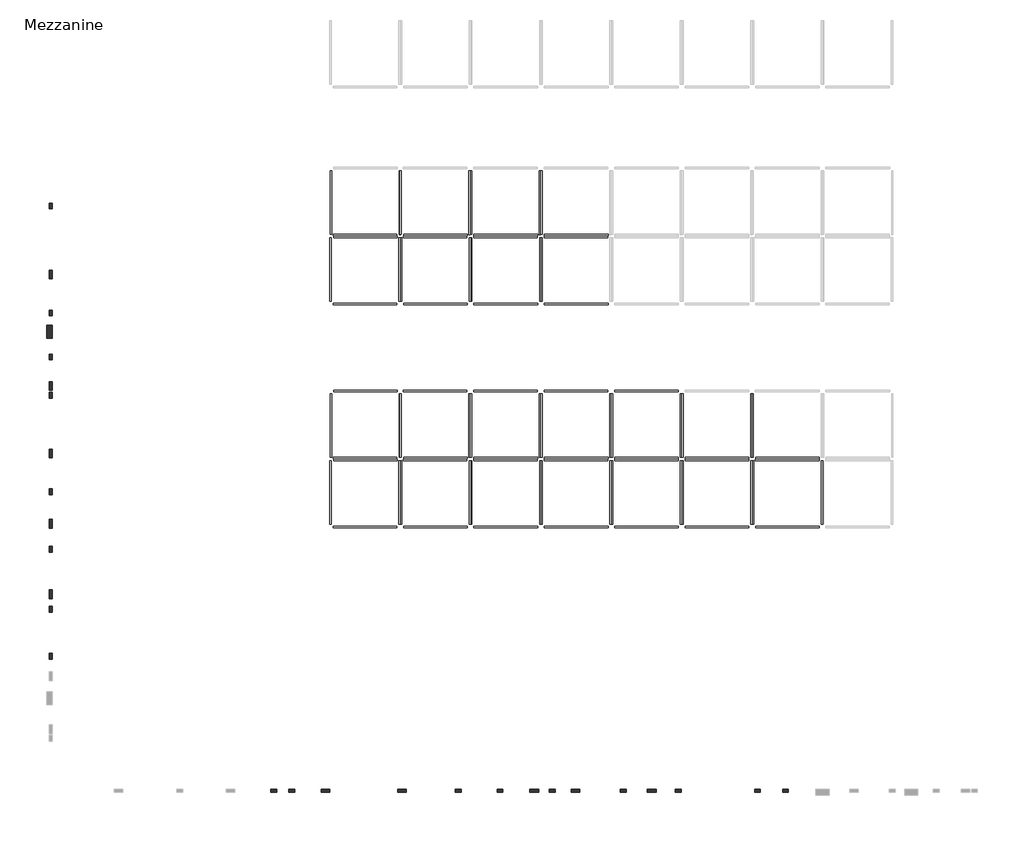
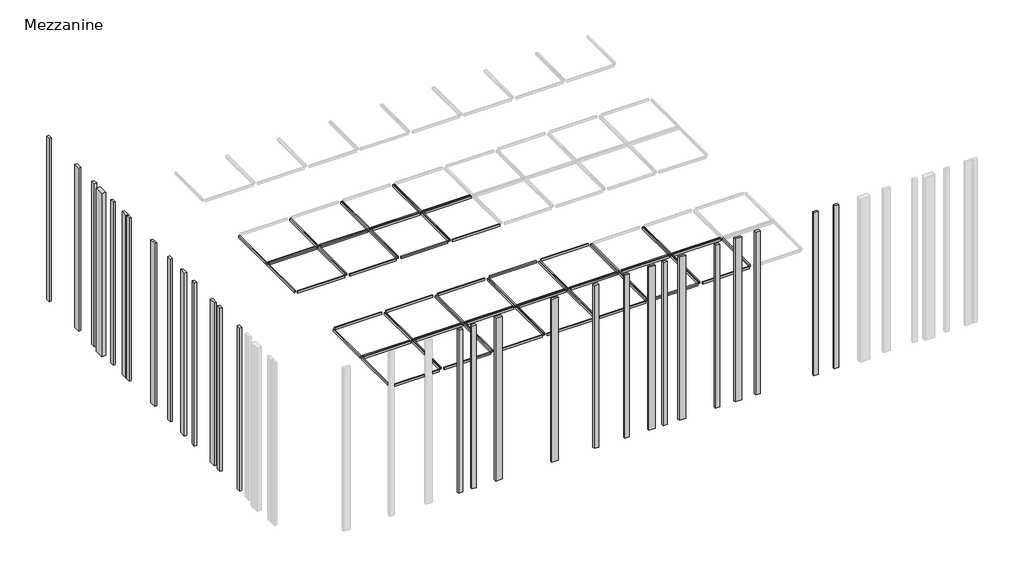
# One storey, part 3 of 7: 79 beams, 28 columns.
"""IFC4 building model written with IfcOpenShell, lengths in millimetres."""

from ifc_helpers import new_model, si_unit, frame, origin, place, context, project, spatial, polyline, outline, extrude, transform, mapped, element, save
from components import timber_gauged_nz_100_x_50_718b6390, timber_gauged_nz_100_x_50_7774ab14, timber_gauged_nz_100_x_50_7b7bee40, timber_gauged_nz_100_x_50_6be5a70a

model = new_model("IFC4")

# Units and contexts
model_context = context("Model", 3, world=origin())
ifc_project = project(units=[si_unit("LENGTHUNIT", "METRE", prefix="MILLI")], contexts=[model_context])

# Site, building, storey
site = spatial("IfcSite", under=ifc_project)
building = spatial("IfcBuilding", under=site)
storey = spatial("IfcBuildingStorey", under=building, Name="Mezzanine", Elevation=5800.0)

# Beams
placement = place(None, origin())
timber_gauged_nz_100_x_50_shape = timber_gauged_nz_100_x_50_718b6390(model_context)
element("IfcBeam", 1, ObjectType="Timber Gauged (NZ) : 100 x 50", at=placement, inside=storey, context=model_context, shape_type="MappedRepresentation", body=[
    mapped(timber_gauged_nz_100_x_50_shape, transform((-79607.5056755, -25111.9011548, 4853.0), x_axis=(1.0, 0.0, 0.0), y_axis=(0.0, 1.0, 0.0), z_axis=(0.0, 0.0, 1.0))),
])
element("IfcBeam", 2, ObjectType="Timber Gauged (NZ) : 100 x 50", at=placement, inside=storey, context=model_context, shape_type="MappedRepresentation", body=[
    mapped(timber_gauged_nz_100_x_50_shape, transform((-77203.1556755, -25111.9011548, 4853.0), x_axis=(1.0, 0.0, 0.0), y_axis=(0.0, 1.0, 0.0), z_axis=(0.0, 0.0, 1.0))),
])
element("IfcBeam", 3, ObjectType="Timber Gauged (NZ) : 100 x 50", at=placement, inside=storey, context=model_context, shape_type="MappedRepresentation", body=[
    mapped(timber_gauged_nz_100_x_50_shape, transform((-74807.5056755, -25111.9011548, 4853.0), x_axis=(1.0, 0.0, 0.0), y_axis=(0.0, 1.0, 0.0), z_axis=(0.0, 0.0, 1.0))),
])
element("IfcBeam", 4, ObjectType="Timber Gauged (NZ) : 100 x 50", at=placement, inside=storey, context=model_context, shape_type="MappedRepresentation", body=[
    mapped(timber_gauged_nz_100_x_50_shape, transform((-72407.5056755, -25111.9011548, 4853.0), x_axis=(1.0, 0.0, 0.0), y_axis=(0.0, 1.0, 0.0), z_axis=(0.0, 0.0, 1.0))),
])
element("IfcBeam", 5, ObjectType="Timber Gauged (NZ) : 100 x 50", at=placement, inside=storey, context=model_context, shape_type="MappedRepresentation", body=[
    mapped(timber_gauged_nz_100_x_50_shape, transform((-70007.5056755, -25111.9011548, 4853.0), x_axis=(1.0, 0.0, 0.0), y_axis=(0.0, 1.0, 0.0), z_axis=(0.0, 0.0, 1.0))),
])
element("IfcBeam", 6, ObjectType="Timber Gauged (NZ) : 100 x 50", at=placement, inside=storey, context=model_context, shape_type="MappedRepresentation", body=[
    mapped(timber_gauged_nz_100_x_50_shape, transform((-67603.1556755, -25111.9011548, 4853.0), x_axis=(1.0, 0.0, 0.0), y_axis=(0.0, 1.0, 0.0), z_axis=(0.0, 0.0, 1.0))),
])
element("IfcBeam", 7, ObjectType="Timber Gauged (NZ) : 100 x 50", at=placement, inside=storey, context=model_context, shape_type="MappedRepresentation", body=[
    mapped(timber_gauged_nz_100_x_50_shape, transform((-65198.8056755, -25111.9011548, 4853.0), x_axis=(1.0, 0.0, 0.0), y_axis=(0.0, 1.0, 0.0), z_axis=(0.0, 0.0, 1.0))),
])
element("IfcBeam", 8, ObjectType="Timber Gauged (NZ) : 100 x 50", at=placement, inside=storey, context=model_context, shape_type="MappedRepresentation", body=[
    mapped(timber_gauged_nz_100_x_50_shape, transform((-65196.1556755, -25182.1175809, 4853.0), x_axis=(-1.0, 0.0, 0.0), y_axis=(0.0, -1.0, 0.0), z_axis=(0.0, 0.0, 1.0))),
])
element("IfcBeam", 9, ObjectType="Timber Gauged (NZ) : 100 x 50", at=placement, inside=storey, context=model_context, shape_type="MappedRepresentation", body=[
    mapped(timber_gauged_nz_100_x_50_shape, transform((-67591.8056755, -25182.1175809, 4853.0), x_axis=(-1.0, 0.0, 0.0), y_axis=(0.0, -1.0, 0.0), z_axis=(0.0, 0.0, 1.0))),
])
element("IfcBeam", 10, ObjectType="Timber Gauged (NZ) : 100 x 50", at=placement, inside=storey, context=model_context, shape_type="MappedRepresentation", body=[
    mapped(timber_gauged_nz_100_x_50_shape, transform((-69991.8056755, -25182.1175809, 4853.0), x_axis=(-1.0, 0.0, 0.0), y_axis=(0.0, -1.0, 0.0), z_axis=(0.0, 0.0, 1.0))),
])
element("IfcBeam", 11, ObjectType="Timber Gauged (NZ) : 100 x 50", at=placement, inside=storey, context=model_context, shape_type="MappedRepresentation", body=[
    mapped(timber_gauged_nz_100_x_50_shape, transform((-72391.8056755, -25182.1175809, 4853.0), x_axis=(-1.0, 0.0, 0.0), y_axis=(0.0, -1.0, 0.0), z_axis=(0.0, 0.0, 1.0))),
])
element("IfcBeam", 12, ObjectType="Timber Gauged (NZ) : 100 x 50", at=placement, inside=storey, context=model_context, shape_type="MappedRepresentation", body=[
    mapped(timber_gauged_nz_100_x_50_shape, transform((-74796.1556755, -25182.1175809, 4853.0), x_axis=(-1.0, 0.0, 0.0), y_axis=(0.0, -1.0, 0.0), z_axis=(0.0, 0.0, 1.0))),
])
element("IfcBeam", 13, ObjectType="Timber Gauged (NZ) : 100 x 50", at=placement, inside=storey, context=model_context, shape_type="MappedRepresentation", body=[
    mapped(timber_gauged_nz_100_x_50_shape, transform((-77200.5056755, -25182.1175809, 4853.0), x_axis=(-1.0, 0.0, 0.0), y_axis=(0.0, -1.0, 0.0), z_axis=(0.0, 0.0, 1.0))),
])
element("IfcBeam", 14, ObjectType="Timber Gauged (NZ) : 100 x 50", at=placement, inside=storey, context=model_context, shape_type="MappedRepresentation", body=[
    mapped(timber_gauged_nz_100_x_50_shape, transform((-79580.5056755, -25182.1175809, 4853.0), x_axis=(-1.0, 0.0, 0.0), y_axis=(0.0, -1.0, 0.0), z_axis=(0.0, 0.0, 1.0))),
])
element("IfcBeam", 15, ObjectType="Timber Gauged (NZ) : 100 x 50", at=placement, inside=storey, context=model_context, shape_type="MappedRepresentation", body=[
    mapped(timber_gauged_nz_100_x_50_shape, transform((-79607.5056755, -17511.9011548, 4853.0), x_axis=(1.0, 0.0, 0.0), y_axis=(0.0, 1.0, 0.0), z_axis=(0.0, 0.0, 1.0))),
])
element("IfcBeam", 16, ObjectType="Timber Gauged (NZ) : 100 x 50", at=placement, inside=storey, context=model_context, shape_type="MappedRepresentation", body=[
    mapped(timber_gauged_nz_100_x_50_shape, transform((-77203.1556755, -17511.9011548, 4853.0), x_axis=(1.0, 0.0, 0.0), y_axis=(0.0, 1.0, 0.0), z_axis=(0.0, 0.0, 1.0))),
])
element("IfcBeam", 17, ObjectType="Timber Gauged (NZ) : 100 x 50", at=placement, inside=storey, context=model_context, shape_type="MappedRepresentation", body=[
    mapped(timber_gauged_nz_100_x_50_shape, transform((-74807.5056755, -17511.9011548, 4853.0), x_axis=(1.0, 0.0, 0.0), y_axis=(0.0, 1.0, 0.0), z_axis=(0.0, 0.0, 1.0))),
])
element("IfcBeam", 18, ObjectType="Timber Gauged (NZ) : 100 x 50", at=placement, inside=storey, context=model_context, shape_type="MappedRepresentation", body=[
    mapped(timber_gauged_nz_100_x_50_shape, transform((-72407.5056755, -17511.9011548, 4853.0), x_axis=(1.0, 0.0, 0.0), y_axis=(0.0, 1.0, 0.0), z_axis=(0.0, 0.0, 1.0))),
])
element("IfcBeam", 19, ObjectType="Timber Gauged (NZ) : 100 x 50", at=placement, inside=storey, context=model_context, shape_type="MappedRepresentation", body=[
    mapped(timber_gauged_nz_100_x_50_shape, transform((-72391.8056755, -17582.1175809, 4853.0), x_axis=(-1.0, 0.0, 0.0), y_axis=(0.0, -1.0, 0.0), z_axis=(0.0, 0.0, 1.0))),
])
element("IfcBeam", 20, ObjectType="Timber Gauged (NZ) : 100 x 50", at=placement, inside=storey, context=model_context, shape_type="MappedRepresentation", body=[
    mapped(timber_gauged_nz_100_x_50_shape, transform((-74796.1556755, -17582.1175809, 4853.0), x_axis=(-1.0, 0.0, 0.0), y_axis=(0.0, -1.0, 0.0), z_axis=(0.0, 0.0, 1.0))),
])
element("IfcBeam", 21, ObjectType="Timber Gauged (NZ) : 100 x 50", at=placement, inside=storey, context=model_context, shape_type="MappedRepresentation", body=[
    mapped(timber_gauged_nz_100_x_50_shape, transform((-77200.5056755, -17582.1175809, 4853.0), x_axis=(-1.0, 0.0, 0.0), y_axis=(0.0, -1.0, 0.0), z_axis=(0.0, 0.0, 1.0))),
])
element("IfcBeam", 22, ObjectType="Timber Gauged (NZ) : 100 x 50", at=placement, inside=storey, context=model_context, shape_type="MappedRepresentation", body=[
    mapped(timber_gauged_nz_100_x_50_shape, transform((-79580.5056755, -17582.1175809, 4853.0), x_axis=(-1.0, 0.0, 0.0), y_axis=(0.0, -1.0, 0.0), z_axis=(0.0, 0.0, 1.0))),
])
timber_gauged_nz_100_x_50_2_shape = timber_gauged_nz_100_x_50_7774ab14(model_context)
element("IfcBeam", 23, ObjectType="Timber Gauged (NZ) : 100 x 50", at=placement, inside=storey, context=model_context, shape_type="MappedRepresentation", body=[
    mapped(timber_gauged_nz_100_x_50_2_shape, transform((-79595.0056755, -27464.9011548, 4853.0), x_axis=(1.0, 0.0, 0.0), y_axis=(0.0, 1.0, 0.0), z_axis=(0.0, 0.0, 1.0))),
])
element("IfcBeam", 24, ObjectType="Timber Gauged (NZ) : 100 x 50", at=placement, inside=storey, context=model_context, shape_type="MappedRepresentation", body=[
    mapped(timber_gauged_nz_100_x_50_2_shape, transform((-77190.6556755, -27464.9011548, 4853.0), x_axis=(1.0, 0.0, 0.0), y_axis=(0.0, 1.0, 0.0), z_axis=(0.0, 0.0, 1.0))),
])
element("IfcBeam", 25, ObjectType="Timber Gauged (NZ) : 100 x 50", at=placement, inside=storey, context=model_context, shape_type="MappedRepresentation", body=[
    mapped(timber_gauged_nz_100_x_50_2_shape, transform((-74795.0056755, -27464.9011548, 4853.0), x_axis=(1.0, 0.0, 0.0), y_axis=(0.0, 1.0, 0.0), z_axis=(0.0, 0.0, 1.0))),
])
element("IfcBeam", 26, ObjectType="Timber Gauged (NZ) : 100 x 50", at=placement, inside=storey, context=model_context, shape_type="MappedRepresentation", body=[
    mapped(timber_gauged_nz_100_x_50_2_shape, transform((-72395.0056755, -27464.9011548, 4853.0), x_axis=(1.0, 0.0, 0.0), y_axis=(0.0, 1.0, 0.0), z_axis=(0.0, 0.0, 1.0))),
])
element("IfcBeam", 27, ObjectType="Timber Gauged (NZ) : 100 x 50", at=placement, inside=storey, context=model_context, shape_type="MappedRepresentation", body=[
    mapped(timber_gauged_nz_100_x_50_2_shape, transform((-69995.0056755, -27464.9011548, 4853.0), x_axis=(1.0, 0.0, 0.0), y_axis=(0.0, 1.0, 0.0), z_axis=(0.0, 0.0, 1.0))),
])
element("IfcBeam", 28, ObjectType="Timber Gauged (NZ) : 100 x 50", at=placement, inside=storey, context=model_context, shape_type="MappedRepresentation", body=[
    mapped(timber_gauged_nz_100_x_50_2_shape, transform((-67590.6556755, -27464.9011548, 4853.0), x_axis=(1.0, 0.0, 0.0), y_axis=(0.0, 1.0, 0.0), z_axis=(0.0, 0.0, 1.0))),
])
element("IfcBeam", 29, ObjectType="Timber Gauged (NZ) : 100 x 50", at=placement, inside=storey, context=model_context, shape_type="MappedRepresentation", body=[
    mapped(timber_gauged_nz_100_x_50_2_shape, transform((-65186.3056755, -27464.9011548, 4853.0), x_axis=(1.0, 0.0, 0.0), y_axis=(0.0, 1.0, 0.0), z_axis=(0.0, 0.0, 1.0))),
])
element("IfcBeam", 30, ObjectType="Timber Gauged (NZ) : 100 x 50", at=placement, inside=storey, context=model_context, shape_type="MappedRepresentation", body=[
    mapped(timber_gauged_nz_100_x_50_2_shape, transform((-70004.3056755, -22829.1175809, 4853.0), x_axis=(-1.0, 0.0, 0.0), y_axis=(0.0, -1.0, 0.0), z_axis=(0.0, 0.0, 1.0))),
])
element("IfcBeam", 31, ObjectType="Timber Gauged (NZ) : 100 x 50", at=placement, inside=storey, context=model_context, shape_type="MappedRepresentation", body=[
    mapped(timber_gauged_nz_100_x_50_2_shape, transform((-72404.3056755, -22829.1175809, 4853.0), x_axis=(-1.0, 0.0, 0.0), y_axis=(0.0, -1.0, 0.0), z_axis=(0.0, 0.0, 1.0))),
])
element("IfcBeam", 32, ObjectType="Timber Gauged (NZ) : 100 x 50", at=placement, inside=storey, context=model_context, shape_type="MappedRepresentation", body=[
    mapped(timber_gauged_nz_100_x_50_2_shape, transform((-74808.6556755, -22829.1175809, 4853.0), x_axis=(-1.0, 0.0, 0.0), y_axis=(0.0, -1.0, 0.0), z_axis=(0.0, 0.0, 1.0))),
])
element("IfcBeam", 33, ObjectType="Timber Gauged (NZ) : 100 x 50", at=placement, inside=storey, context=model_context, shape_type="MappedRepresentation", body=[
    mapped(timber_gauged_nz_100_x_50_2_shape, transform((-77213.0056755, -22829.1175809, 4853.0), x_axis=(-1.0, 0.0, 0.0), y_axis=(0.0, -1.0, 0.0), z_axis=(0.0, 0.0, 1.0))),
])
element("IfcBeam", 34, ObjectType="Timber Gauged (NZ) : 100 x 50", at=placement, inside=storey, context=model_context, shape_type="MappedRepresentation", body=[
    mapped(timber_gauged_nz_100_x_50_2_shape, transform((-79593.0056755, -22829.1175809, 4853.0), x_axis=(-1.0, 0.0, 0.0), y_axis=(0.0, -1.0, 0.0), z_axis=(0.0, 0.0, 1.0))),
])
element("IfcBeam", 35, ObjectType="Timber Gauged (NZ) : 100 x 50", at=placement, inside=storey, context=model_context, shape_type="MappedRepresentation", body=[
    mapped(timber_gauged_nz_100_x_50_2_shape, transform((-79595.0056755, -19864.9011548, 4853.0), x_axis=(1.0, 0.0, 0.0), y_axis=(0.0, 1.0, 0.0), z_axis=(0.0, 0.0, 1.0))),
])
element("IfcBeam", 36, ObjectType="Timber Gauged (NZ) : 100 x 50", at=placement, inside=storey, context=model_context, shape_type="MappedRepresentation", body=[
    mapped(timber_gauged_nz_100_x_50_2_shape, transform((-77190.6556755, -19864.9011548, 4853.0), x_axis=(1.0, 0.0, 0.0), y_axis=(0.0, 1.0, 0.0), z_axis=(0.0, 0.0, 1.0))),
])
element("IfcBeam", 37, ObjectType="Timber Gauged (NZ) : 100 x 50", at=placement, inside=storey, context=model_context, shape_type="MappedRepresentation", body=[
    mapped(timber_gauged_nz_100_x_50_2_shape, transform((-74795.0056755, -19864.9011548, 4853.0), x_axis=(1.0, 0.0, 0.0), y_axis=(0.0, 1.0, 0.0), z_axis=(0.0, 0.0, 1.0))),
])
element("IfcBeam", 38, ObjectType="Timber Gauged (NZ) : 100 x 50", at=placement, inside=storey, context=model_context, shape_type="MappedRepresentation", body=[
    mapped(timber_gauged_nz_100_x_50_2_shape, transform((-72395.0056755, -19864.9011548, 4853.0), x_axis=(1.0, 0.0, 0.0), y_axis=(0.0, 1.0, 0.0), z_axis=(0.0, 0.0, 1.0))),
])
timber_gauged_nz_100_x_50_3_shape = timber_gauged_nz_100_x_50_7b7bee40(model_context)
element("IfcBeam", 39, ObjectType="Timber Gauged (NZ) : 100 x 50", at=placement, inside=storey, context=model_context, shape_type="MappedRepresentation", body=[
    mapped(timber_gauged_nz_100_x_50_3_shape, transform((-80776.1556755, -26344.9011548, 4853.0), x_axis=(0.0, -1.0, 0.0), y_axis=(1.0, 0.0, 0.0), z_axis=(0.0, 0.0, 1.0))),
])
element("IfcBeam", 40, ObjectType="Timber Gauged (NZ) : 100 x 50", at=placement, inside=storey, context=model_context, shape_type="MappedRepresentation", body=[
    mapped(timber_gauged_nz_100_x_50_3_shape, transform((-78371.8056755, -26344.9011548, 4853.0), x_axis=(0.0, -1.0, 0.0), y_axis=(1.0, 0.0, 0.0), z_axis=(0.0, 0.0, 1.0))),
])
element("IfcBeam", 41, ObjectType="Timber Gauged (NZ) : 100 x 50", at=placement, inside=storey, context=model_context, shape_type="MappedRepresentation", body=[
    mapped(timber_gauged_nz_100_x_50_3_shape, transform((-75976.1556755, -26344.9011548, 4853.0), x_axis=(0.0, -1.0, 0.0), y_axis=(1.0, 0.0, 0.0), z_axis=(0.0, 0.0, 1.0))),
])
element("IfcBeam", 42, ObjectType="Timber Gauged (NZ) : 100 x 50", at=placement, inside=storey, context=model_context, shape_type="MappedRepresentation", body=[
    mapped(timber_gauged_nz_100_x_50_3_shape, transform((-73576.1556755, -26344.9011548, 4853.0), x_axis=(0.0, -1.0, 0.0), y_axis=(1.0, 0.0, 0.0), z_axis=(0.0, 0.0, 1.0))),
])
element("IfcBeam", 43, ObjectType="Timber Gauged (NZ) : 100 x 50", at=placement, inside=storey, context=model_context, shape_type="MappedRepresentation", body=[
    mapped(timber_gauged_nz_100_x_50_3_shape, transform((-71176.1556755, -26344.9011548, 4853.0), x_axis=(0.0, -1.0, 0.0), y_axis=(1.0, 0.0, 0.0), z_axis=(0.0, 0.0, 1.0))),
])
element("IfcBeam", 44, ObjectType="Timber Gauged (NZ) : 100 x 50", at=placement, inside=storey, context=model_context, shape_type="MappedRepresentation", body=[
    mapped(timber_gauged_nz_100_x_50_3_shape, transform((-68771.8056755, -26344.9011548, 4853.0), x_axis=(0.0, -1.0, 0.0), y_axis=(1.0, 0.0, 0.0), z_axis=(0.0, 0.0, 1.0))),
])
element("IfcBeam", 45, ObjectType="Timber Gauged (NZ) : 100 x 50", at=placement, inside=storey, context=model_context, shape_type="MappedRepresentation", body=[
    mapped(timber_gauged_nz_100_x_50_3_shape, transform((-66367.4556755, -26344.9011548, 4853.0), x_axis=(0.0, -1.0, 0.0), y_axis=(1.0, 0.0, 0.0), z_axis=(0.0, 0.0, 1.0))),
])
element("IfcBeam", 46, ObjectType="Timber Gauged (NZ) : 100 x 50", at=placement, inside=storey, context=model_context, shape_type="MappedRepresentation", body=[
    mapped(timber_gauged_nz_100_x_50_3_shape, transform((-66423.1556755, -23949.1175809, 4853.0), x_axis=(0.0, 1.0, 0.0), y_axis=(-1.0, 0.0, 0.0), z_axis=(0.0, 0.0, 1.0))),
])
element("IfcBeam", 47, ObjectType="Timber Gauged (NZ) : 100 x 50", at=placement, inside=storey, context=model_context, shape_type="MappedRepresentation", body=[
    mapped(timber_gauged_nz_100_x_50_3_shape, transform((-68823.1556755, -23949.1175809, 4853.0), x_axis=(0.0, 1.0, 0.0), y_axis=(-1.0, 0.0, 0.0), z_axis=(0.0, 0.0, 1.0))),
])
element("IfcBeam", 48, ObjectType="Timber Gauged (NZ) : 100 x 50", at=placement, inside=storey, context=model_context, shape_type="MappedRepresentation", body=[
    mapped(timber_gauged_nz_100_x_50_3_shape, transform((-71223.1556755, -23949.1175809, 4853.0), x_axis=(0.0, 1.0, 0.0), y_axis=(-1.0, 0.0, 0.0), z_axis=(0.0, 0.0, 1.0))),
])
element("IfcBeam", 49, ObjectType="Timber Gauged (NZ) : 100 x 50", at=placement, inside=storey, context=model_context, shape_type="MappedRepresentation", body=[
    mapped(timber_gauged_nz_100_x_50_3_shape, transform((-73627.5056755, -23949.1175809, 4853.0), x_axis=(0.0, 1.0, 0.0), y_axis=(-1.0, 0.0, 0.0), z_axis=(0.0, 0.0, 1.0))),
])
element("IfcBeam", 50, ObjectType="Timber Gauged (NZ) : 100 x 50", at=placement, inside=storey, context=model_context, shape_type="MappedRepresentation", body=[
    mapped(timber_gauged_nz_100_x_50_3_shape, transform((-76031.8556755, -23949.1175809, 4853.0), x_axis=(0.0, 1.0, 0.0), y_axis=(-1.0, 0.0, 0.0), z_axis=(0.0, 0.0, 1.0))),
])
element("IfcBeam", 51, ObjectType="Timber Gauged (NZ) : 100 x 50", at=placement, inside=storey, context=model_context, shape_type="MappedRepresentation", body=[
    mapped(timber_gauged_nz_100_x_50_3_shape, transform((-78411.8556755, -23949.1175809, 4853.0), x_axis=(0.0, 1.0, 0.0), y_axis=(-1.0, 0.0, 0.0), z_axis=(0.0, 0.0, 1.0))),
])
element("IfcBeam", 52, ObjectType="Timber Gauged (NZ) : 100 x 50", at=placement, inside=storey, context=model_context, shape_type="MappedRepresentation", body=[
    mapped(timber_gauged_nz_100_x_50_3_shape, transform((-80776.1556755, -18744.9011548, 4853.0), x_axis=(0.0, -1.0, 0.0), y_axis=(1.0, 0.0, 0.0), z_axis=(0.0, 0.0, 1.0))),
])
element("IfcBeam", 53, ObjectType="Timber Gauged (NZ) : 100 x 50", at=placement, inside=storey, context=model_context, shape_type="MappedRepresentation", body=[
    mapped(timber_gauged_nz_100_x_50_3_shape, transform((-78371.8056755, -18744.9011548, 4853.0), x_axis=(0.0, -1.0, 0.0), y_axis=(1.0, 0.0, 0.0), z_axis=(0.0, 0.0, 1.0))),
])
element("IfcBeam", 54, ObjectType="Timber Gauged (NZ) : 100 x 50", at=placement, inside=storey, context=model_context, shape_type="MappedRepresentation", body=[
    mapped(timber_gauged_nz_100_x_50_3_shape, transform((-75976.1556755, -18744.9011548, 4853.0), x_axis=(0.0, -1.0, 0.0), y_axis=(1.0, 0.0, 0.0), z_axis=(0.0, 0.0, 1.0))),
])
element("IfcBeam", 55, ObjectType="Timber Gauged (NZ) : 100 x 50", at=placement, inside=storey, context=model_context, shape_type="MappedRepresentation", body=[
    mapped(timber_gauged_nz_100_x_50_3_shape, transform((-73576.1556755, -18744.9011548, 4853.0), x_axis=(0.0, -1.0, 0.0), y_axis=(1.0, 0.0, 0.0), z_axis=(0.0, 0.0, 1.0))),
])
element("IfcBeam", 56, ObjectType="Timber Gauged (NZ) : 100 x 50", at=placement, inside=storey, context=model_context, shape_type="MappedRepresentation", body=[
    mapped(timber_gauged_nz_100_x_50_3_shape, transform((-73627.5056755, -16349.1175809, 4853.0), x_axis=(0.0, 1.0, 0.0), y_axis=(-1.0, 0.0, 0.0), z_axis=(0.0, 0.0, 1.0))),
])
element("IfcBeam", 57, ObjectType="Timber Gauged (NZ) : 100 x 50", at=placement, inside=storey, context=model_context, shape_type="MappedRepresentation", body=[
    mapped(timber_gauged_nz_100_x_50_3_shape, transform((-76031.8556755, -16349.1175809, 4853.0), x_axis=(0.0, 1.0, 0.0), y_axis=(-1.0, 0.0, 0.0), z_axis=(0.0, 0.0, 1.0))),
])
element("IfcBeam", 58, ObjectType="Timber Gauged (NZ) : 100 x 50", at=placement, inside=storey, context=model_context, shape_type="MappedRepresentation", body=[
    mapped(timber_gauged_nz_100_x_50_3_shape, transform((-78411.8556755, -16349.1175809, 4853.0), x_axis=(0.0, 1.0, 0.0), y_axis=(-1.0, 0.0, 0.0), z_axis=(0.0, 0.0, 1.0))),
])
timber_gauged_nz_100_x_50_4_shape = timber_gauged_nz_100_x_50_6be5a70a(model_context)
element("IfcBeam", 59, ObjectType="Timber Gauged (NZ) : 100 x 50", at=placement, inside=storey, context=model_context, shape_type="MappedRepresentation", body=[
    mapped(timber_gauged_nz_100_x_50_4_shape, transform((-78423.1556755, -26264.7011548, 4853.0), x_axis=(0.0, -1.0, 0.0), y_axis=(1.0, 0.0, 0.0), z_axis=(0.0, 0.0, 1.0))),
])
element("IfcBeam", 60, ObjectType="Timber Gauged (NZ) : 100 x 50", at=placement, inside=storey, context=model_context, shape_type="MappedRepresentation", body=[
    mapped(timber_gauged_nz_100_x_50_4_shape, transform((-76018.8056755, -26264.7011548, 4853.0), x_axis=(0.0, -1.0, 0.0), y_axis=(1.0, 0.0, 0.0), z_axis=(0.0, 0.0, 1.0))),
])
element("IfcBeam", 61, ObjectType="Timber Gauged (NZ) : 100 x 50", at=placement, inside=storey, context=model_context, shape_type="MappedRepresentation", body=[
    mapped(timber_gauged_nz_100_x_50_4_shape, transform((-73623.1556755, -26264.7011548, 4853.0), x_axis=(0.0, -1.0, 0.0), y_axis=(1.0, 0.0, 0.0), z_axis=(0.0, 0.0, 1.0))),
])
element("IfcBeam", 62, ObjectType="Timber Gauged (NZ) : 100 x 50", at=placement, inside=storey, context=model_context, shape_type="MappedRepresentation", body=[
    mapped(timber_gauged_nz_100_x_50_4_shape, transform((-71223.1556755, -26264.7011548, 4853.0), x_axis=(0.0, -1.0, 0.0), y_axis=(1.0, 0.0, 0.0), z_axis=(0.0, 0.0, 1.0))),
])
element("IfcBeam", 63, ObjectType="Timber Gauged (NZ) : 100 x 50", at=placement, inside=storey, context=model_context, shape_type="MappedRepresentation", body=[
    mapped(timber_gauged_nz_100_x_50_4_shape, transform((-68823.1556755, -26264.7011548, 4853.0), x_axis=(0.0, -1.0, 0.0), y_axis=(1.0, 0.0, 0.0), z_axis=(0.0, 0.0, 1.0))),
])
element("IfcBeam", 64, ObjectType="Timber Gauged (NZ) : 100 x 50", at=placement, inside=storey, context=model_context, shape_type="MappedRepresentation", body=[
    mapped(timber_gauged_nz_100_x_50_4_shape, transform((-66418.8056755, -26264.7011548, 4853.0), x_axis=(0.0, -1.0, 0.0), y_axis=(1.0, 0.0, 0.0), z_axis=(0.0, 0.0, 1.0))),
])
element("IfcBeam", 65, ObjectType="Timber Gauged (NZ) : 100 x 50", at=placement, inside=storey, context=model_context, shape_type="MappedRepresentation", body=[
    mapped(timber_gauged_nz_100_x_50_4_shape, transform((-64014.4556755, -26264.7011548, 4853.0), x_axis=(0.0, -1.0, 0.0), y_axis=(1.0, 0.0, 0.0), z_axis=(0.0, 0.0, 1.0))),
])
element("IfcBeam", 66, ObjectType="Timber Gauged (NZ) : 100 x 50", at=placement, inside=storey, context=model_context, shape_type="MappedRepresentation", body=[
    mapped(timber_gauged_nz_100_x_50_4_shape, transform((-66380.5056755, -24029.3175809, 4853.0), x_axis=(0.0, 1.0, 0.0), y_axis=(-1.0, 0.0, 0.0), z_axis=(0.0, 0.0, 1.0))),
])
element("IfcBeam", 67, ObjectType="Timber Gauged (NZ) : 100 x 50", at=placement, inside=storey, context=model_context, shape_type="MappedRepresentation", body=[
    mapped(timber_gauged_nz_100_x_50_4_shape, transform((-68776.1556755, -24029.3175809, 4853.0), x_axis=(0.0, 1.0, 0.0), y_axis=(-1.0, 0.0, 0.0), z_axis=(0.0, 0.0, 1.0))),
])
element("IfcBeam", 68, ObjectType="Timber Gauged (NZ) : 100 x 50", at=placement, inside=storey, context=model_context, shape_type="MappedRepresentation", body=[
    mapped(timber_gauged_nz_100_x_50_4_shape, transform((-71176.1556755, -24029.3175809, 4853.0), x_axis=(0.0, 1.0, 0.0), y_axis=(-1.0, 0.0, 0.0), z_axis=(0.0, 0.0, 1.0))),
])
element("IfcBeam", 69, ObjectType="Timber Gauged (NZ) : 100 x 50", at=placement, inside=storey, context=model_context, shape_type="MappedRepresentation", body=[
    mapped(timber_gauged_nz_100_x_50_4_shape, transform((-73576.1556755, -24029.3175809, 4853.0), x_axis=(0.0, 1.0, 0.0), y_axis=(-1.0, 0.0, 0.0), z_axis=(0.0, 0.0, 1.0))),
])
element("IfcBeam", 70, ObjectType="Timber Gauged (NZ) : 100 x 50", at=placement, inside=storey, context=model_context, shape_type="MappedRepresentation", body=[
    mapped(timber_gauged_nz_100_x_50_4_shape, transform((-75980.5056755, -24029.3175809, 4853.0), x_axis=(0.0, 1.0, 0.0), y_axis=(-1.0, 0.0, 0.0), z_axis=(0.0, 0.0, 1.0))),
])
element("IfcBeam", 71, ObjectType="Timber Gauged (NZ) : 100 x 50", at=placement, inside=storey, context=model_context, shape_type="MappedRepresentation", body=[
    mapped(timber_gauged_nz_100_x_50_4_shape, transform((-78384.8556755, -24029.3175809, 4853.0), x_axis=(0.0, 1.0, 0.0), y_axis=(-1.0, 0.0, 0.0), z_axis=(0.0, 0.0, 1.0))),
])
element("IfcBeam", 72, ObjectType="Timber Gauged (NZ) : 100 x 50", at=placement, inside=storey, context=model_context, shape_type="MappedRepresentation", body=[
    mapped(timber_gauged_nz_100_x_50_4_shape, transform((-80764.8556755, -24029.3175809, 4853.0), x_axis=(0.0, 1.0, 0.0), y_axis=(-1.0, 0.0, 0.0), z_axis=(0.0, 0.0, 1.0))),
])
element("IfcBeam", 73, ObjectType="Timber Gauged (NZ) : 100 x 50", at=placement, inside=storey, context=model_context, shape_type="MappedRepresentation", body=[
    mapped(timber_gauged_nz_100_x_50_4_shape, transform((-78423.1556755, -18664.7011548, 4853.0), x_axis=(0.0, -1.0, 0.0), y_axis=(1.0, 0.0, 0.0), z_axis=(0.0, 0.0, 1.0))),
])
element("IfcBeam", 74, ObjectType="Timber Gauged (NZ) : 100 x 50", at=placement, inside=storey, context=model_context, shape_type="MappedRepresentation", body=[
    mapped(timber_gauged_nz_100_x_50_4_shape, transform((-76018.8056755, -18664.7011548, 4853.0), x_axis=(0.0, -1.0, 0.0), y_axis=(1.0, 0.0, 0.0), z_axis=(0.0, 0.0, 1.0))),
])
element("IfcBeam", 75, ObjectType="Timber Gauged (NZ) : 100 x 50", at=placement, inside=storey, context=model_context, shape_type="MappedRepresentation", body=[
    mapped(timber_gauged_nz_100_x_50_4_shape, transform((-73623.1556755, -18664.7011548, 4853.0), x_axis=(0.0, -1.0, 0.0), y_axis=(1.0, 0.0, 0.0), z_axis=(0.0, 0.0, 1.0))),
])
element("IfcBeam", 76, ObjectType="Timber Gauged (NZ) : 100 x 50", at=placement, inside=storey, context=model_context, shape_type="MappedRepresentation", body=[
    mapped(timber_gauged_nz_100_x_50_4_shape, transform((-73576.1556755, -16429.3175809, 4853.0), x_axis=(0.0, 1.0, 0.0), y_axis=(-1.0, 0.0, 0.0), z_axis=(0.0, 0.0, 1.0))),
])
element("IfcBeam", 77, ObjectType="Timber Gauged (NZ) : 100 x 50", at=placement, inside=storey, context=model_context, shape_type="MappedRepresentation", body=[
    mapped(timber_gauged_nz_100_x_50_4_shape, transform((-75980.5056755, -16429.3175809, 4853.0), x_axis=(0.0, 1.0, 0.0), y_axis=(-1.0, 0.0, 0.0), z_axis=(0.0, 0.0, 1.0))),
])
element("IfcBeam", 78, ObjectType="Timber Gauged (NZ) : 100 x 50", at=placement, inside=storey, context=model_context, shape_type="MappedRepresentation", body=[
    mapped(timber_gauged_nz_100_x_50_4_shape, transform((-78384.8556755, -16429.3175809, 4853.0), x_axis=(0.0, 1.0, 0.0), y_axis=(-1.0, 0.0, 0.0), z_axis=(0.0, 0.0, 1.0))),
])
element("IfcBeam", 79, ObjectType="Timber Gauged (NZ) : 100 x 50", at=placement, inside=storey, context=model_context, shape_type="MappedRepresentation", body=[
    mapped(timber_gauged_nz_100_x_50_4_shape, transform((-80764.8556755, -16429.3175809, 4853.0), x_axis=(0.0, 1.0, 0.0), y_axis=(-1.0, 0.0, 0.0), z_axis=(0.0, 0.0, 1.0))),
])

# Columns
element("IfcColumn", 80, ObjectType="Columns_Rectangular : 200x200", at=placement, inside=storey, context=model_context, shape_type="SweptSolid", body=[
    extrude(outline(polyline([(-90259.8408447, -20068.4199596), (-90259.8408447, -20268.4199596), (-90359.8408447, -20268.4199596), (-90359.8408447, -20068.4199596), (-90259.8408447, -20068.4199596)])), frame((0.0, 0.0, 5800.0), z_axis=(0.0, 0.0, 1.0), x_axis=(1.0, 0.0, 0.0)), (0.0, 0.0, 1.0), 8000.0),
])
element("IfcColumn", 81, ObjectType="Columns_Rectangular : 200x200", at=placement, inside=storey, context=model_context, shape_type="SweptSolid", body=[
    extrude(outline(polyline([(-90259.8408447, -21568.4199596), (-90259.8408447, -21768.4199596), (-90359.8408447, -21768.4199596), (-90359.8408447, -21568.4199596), (-90259.8408447, -21568.4199596)])), frame((0.0, 0.0, 5800.0), z_axis=(0.0, 0.0, 1.0), x_axis=(1.0, 0.0, 0.0)), (0.0, 0.0, 1.0), 8000.0),
])
element("IfcColumn", 82, ObjectType="Columns_Rectangular : 200x200", at=placement, inside=storey, context=model_context, shape_type="SweptSolid", body=[
    extrude(outline(polyline([(-90259.8408447, -22868.4199596), (-90259.8408447, -23068.4199596), (-90359.8408447, -23068.4199596), (-90359.8408447, -22868.4199596), (-90259.8408447, -22868.4199596)])), frame((0.0, 0.0, 5800.0), z_axis=(0.0, 0.0, 1.0), x_axis=(1.0, 0.0, 0.0)), (0.0, 0.0, 1.0), 8000.0),
])
element("IfcColumn", 83, ObjectType="Columns_Rectangular : 200x200", at=placement, inside=storey, context=model_context, shape_type="SweptSolid", body=[
    extrude(outline(polyline([(-90259.8408447, -26168.4199596), (-90259.8408447, -26368.4199596), (-90359.8408447, -26368.4199596), (-90359.8408447, -26168.4199596), (-90259.8408447, -26168.4199596)])), frame((0.0, 0.0, 5800.0), z_axis=(0.0, 0.0, 1.0), x_axis=(1.0, 0.0, 0.0)), (0.0, 0.0, 1.0), 8000.0),
])
element("IfcColumn", 84, ObjectType="Columns_Rectangular : 200x200", at=placement, inside=storey, context=model_context, shape_type="SweptSolid", body=[
    extrude(outline(polyline([(-90259.8408447, -30168.4199596), (-90259.8408447, -30368.4199596), (-90359.8408447, -30368.4199596), (-90359.8408447, -30168.4199596), (-90259.8408447, -30168.4199596)])), frame((0.0, 0.0, 5800.0), z_axis=(0.0, 0.0, 1.0), x_axis=(1.0, 0.0, 0.0)), (0.0, 0.0, 1.0), 8000.0),
])
element("IfcColumn", 85, ObjectType="Columns_Rectangular : 200x200", at=placement, inside=storey, context=model_context, shape_type="SweptSolid", body=[
    extrude(outline(polyline([(-90259.8408447, -31768.4199596), (-90259.8408447, -31968.4199596), (-90359.8408447, -31968.4199596), (-90359.8408447, -31768.4199596), (-90259.8408447, -31768.4199596)])), frame((0.0, 0.0, 5800.0), z_axis=(0.0, 0.0, 1.0), x_axis=(1.0, 0.0, 0.0)), (0.0, 0.0, 1.0), 8000.0),
])
element("IfcColumn", 86, ObjectType="Columns_Rectangular : 200x200", at=placement, inside=storey, context=model_context, shape_type="SweptSolid", body=[
    extrude(outline(polyline([(-73316.5322209, -36405.9222204), (-73116.5322209, -36405.9222204), (-73116.5322209, -36505.9222204), (-73316.5322209, -36505.9222204), (-73316.5322209, -36405.9222204)])), frame((0.0, 0.0, 5800.0), z_axis=(0.0, 0.0, 1.0), x_axis=(1.0, 0.0, 0.0)), (0.0, 0.0, 1.0), 8000.0),
])
element("IfcColumn", 87, ObjectType="Columns_Rectangular : 200x200", at=placement, inside=storey, context=model_context, shape_type="SweptSolid", body=[
    extrude(outline(polyline([(-76516.5322209, -36405.9222204), (-76316.5322209, -36405.9222204), (-76316.5322209, -36505.9222204), (-76516.5322209, -36505.9222204), (-76516.5322209, -36405.9222204)])), frame((0.0, 0.0, 5800.0), z_axis=(0.0, 0.0, 1.0), x_axis=(1.0, 0.0, 0.0)), (0.0, 0.0, 1.0), 8000.0),
])
element("IfcColumn", 88, ObjectType="Columns_Rectangular : 200x200", at=placement, inside=storey, context=model_context, shape_type="SweptSolid", body=[
    extrude(outline(polyline([(-82816.5322209, -36405.9222204), (-82616.5322209, -36405.9222204), (-82616.5322209, -36505.9222204), (-82816.5322209, -36505.9222204), (-82816.5322209, -36405.9222204)])), frame((0.0, 0.0, 5800.0), z_axis=(0.0, 0.0, 1.0), x_axis=(1.0, 0.0, 0.0)), (0.0, 0.0, 1.0), 8000.0),
])
element("IfcColumn", 89, ObjectType="Columns_Rectangular : 200x200", at=placement, inside=storey, context=model_context, shape_type="SweptSolid", body=[
    extrude(outline(polyline([(-69016.5322209, -36405.9222204), (-68816.5322209, -36405.9222204), (-68816.5322209, -36505.9222204), (-69016.5322209, -36505.9222204), (-69016.5322209, -36405.9222204)])), frame((0.0, 0.0, 5800.0), z_axis=(0.0, 0.0, 1.0), x_axis=(1.0, 0.0, 0.0)), (0.0, 0.0, 1.0), 8000.0),
])
element("IfcColumn", 90, ObjectType="Columns_Rectangular : 200x200", at=placement, inside=storey, context=model_context, shape_type="SweptSolid", body=[
    extrude(outline(polyline([(-66316.5322209, -36405.9222204), (-66116.5322209, -36405.9222204), (-66116.5322209, -36505.9222204), (-66316.5322209, -36505.9222204), (-66316.5322209, -36405.9222204)])), frame((0.0, 0.0, 5800.0), z_axis=(0.0, 0.0, 1.0), x_axis=(1.0, 0.0, 0.0)), (0.0, 0.0, 1.0), 8000.0),
])
element("IfcColumn", 91, ObjectType="Columns_Rectangular : 200x200 white", at=placement, inside=storey, context=model_context, shape_type="SweptSolid", body=[
    extrude(outline(polyline([(-90259.8408447, -16422.034888), (-90259.8408447, -16622.034888), (-90359.8408447, -16622.034888), (-90359.8408447, -16422.034888), (-90259.8408447, -16422.034888)])), frame((0.0, 0.0, 5800.0), z_axis=(0.0, 0.0, 1.0), x_axis=(1.0, 0.0, 0.0)), (0.0, 0.0, 1.0), 8000.0),
])
element("IfcColumn", 92, ObjectType="Columns_Rectangular : 200x200 white", at=placement, inside=storey, context=model_context, shape_type="SweptSolid", body=[
    extrude(outline(polyline([(-90259.8408447, -28124.5746681), (-90259.8408447, -28324.5746681), (-90359.8408447, -28324.5746681), (-90359.8408447, -28124.5746681), (-90259.8408447, -28124.5746681)])), frame((0.0, 0.0, 5800.0), z_axis=(0.0, 0.0, 1.0), x_axis=(1.0, 0.0, 0.0)), (0.0, 0.0, 1.0), 8000.0),
])
element("IfcColumn", 93, ObjectType="Columns_Rectangular : 200x200 white", at=placement, inside=storey, context=model_context, shape_type="SweptSolid", body=[
    extrude(outline(polyline([(-65362.9172925, -36405.9222204), (-65162.9172925, -36405.9222204), (-65162.9172925, -36505.9222204), (-65362.9172925, -36505.9222204), (-65362.9172925, -36405.9222204)])), frame((0.0, 0.0, 5800.0), z_axis=(0.0, 0.0, 1.0), x_axis=(1.0, 0.0, 0.0)), (0.0, 0.0, 1.0), 8000.0),
])
element("IfcColumn", 94, ObjectType="Columns_Rectangular : 200x200 white", at=placement, inside=storey, context=model_context, shape_type="SweptSolid", body=[
    extrude(outline(polyline([(-82197.9011468, -36405.9222204), (-81997.9011468, -36405.9222204), (-81997.9011468, -36505.9222204), (-82197.9011468, -36505.9222204), (-82197.9011468, -36405.9222204)])), frame((0.0, 0.0, 5800.0), z_axis=(0.0, 0.0, 1.0), x_axis=(1.0, 0.0, 0.0)), (0.0, 0.0, 1.0), 8000.0),
])
element("IfcColumn", 95, ObjectType="Columns_Rectangular : 200x200 white", at=placement, inside=storey, context=model_context, shape_type="SweptSolid", body=[
    extrude(outline(polyline([(-75097.9977767, -36405.9222204), (-74897.9977767, -36405.9222204), (-74897.9977767, -36505.9222204), (-75097.9977767, -36505.9222204), (-75097.9977767, -36405.9222204)])), frame((0.0, 0.0, 5800.0), z_axis=(0.0, 0.0, 1.0), x_axis=(1.0, 0.0, 0.0)), (0.0, 0.0, 1.0), 8000.0),
])
element("IfcColumn", 96, ObjectType="Columns_Rectangular : 200x200 white", at=placement, inside=storey, context=model_context, shape_type="SweptSolid", body=[
    extrude(outline(polyline([(-70895.3056755, -36405.9222204), (-70695.3056755, -36405.9222204), (-70695.3056755, -36505.9222204), (-70895.3056755, -36505.9222204), (-70895.3056755, -36405.9222204)])), frame((0.0, 0.0, 5800.0), z_axis=(0.0, 0.0, 1.0), x_axis=(1.0, 0.0, 0.0)), (0.0, 0.0, 1.0), 8000.0),
])
element("IfcColumn", 97, ObjectType="Columns_Rectangular : 300x300", at=placement, inside=storey, context=model_context, shape_type="SweptSolid", body=[
    extrude(outline(polyline([(-90259.8408447, -18708.892235), (-90259.8408447, -19008.892235), (-90359.8408447, -19008.892235), (-90359.8408447, -18708.892235), (-90259.8408447, -18708.892235)])), frame((0.0, 0.0, 5800.0), z_axis=(0.0, 0.0, 1.0), x_axis=(1.0, 0.0, 0.0)), (0.0, 0.0, 1.0), 8000.0),
])
element("IfcColumn", 98, ObjectType="Columns_Rectangular : 300x300", at=placement, inside=storey, context=model_context, shape_type="SweptSolid", body=[
    extrude(outline(polyline([(-90259.8408447, -22508.892235), (-90259.8408447, -22808.892235), (-90359.8408447, -22808.892235), (-90359.8408447, -22508.892235), (-90259.8408447, -22508.892235)])), frame((0.0, 0.0, 5800.0), z_axis=(0.0, 0.0, 1.0), x_axis=(1.0, 0.0, 0.0)), (0.0, 0.0, 1.0), 8000.0),
])
element("IfcColumn", 99, ObjectType="Columns_Rectangular : 300x300", at=placement, inside=storey, context=model_context, shape_type="SweptSolid", body=[
    extrude(outline(polyline([(-90259.8408447, -24808.892235), (-90259.8408447, -25108.892235), (-90359.8408447, -25108.892235), (-90359.8408447, -24808.892235), (-90259.8408447, -24808.892235)])), frame((0.0, 0.0, 5800.0), z_axis=(0.0, 0.0, 1.0), x_axis=(1.0, 0.0, 0.0)), (0.0, 0.0, 1.0), 8000.0),
])
element("IfcColumn", 100, ObjectType="Columns_Rectangular : 300x300", at=placement, inside=storey, context=model_context, shape_type="SweptSolid", body=[
    extrude(outline(polyline([(-90259.8408447, -27208.892235), (-90259.8408447, -27508.892235), (-90359.8408447, -27508.892235), (-90359.8408447, -27208.892235), (-90259.8408447, -27208.892235)])), frame((0.0, 0.0, 5800.0), z_axis=(0.0, 0.0, 1.0), x_axis=(1.0, 0.0, 0.0)), (0.0, 0.0, 1.0), 8000.0),
])
element("IfcColumn", 101, ObjectType="Columns_Rectangular : 300x300", at=placement, inside=storey, context=model_context, shape_type="SweptSolid", body=[
    extrude(outline(polyline([(-90259.8408447, -29608.892235), (-90259.8408447, -29908.892235), (-90359.8408447, -29908.892235), (-90359.8408447, -29608.892235), (-90259.8408447, -29608.892235)])), frame((0.0, 0.0, 5800.0), z_axis=(0.0, 0.0, 1.0), x_axis=(1.0, 0.0, 0.0)), (0.0, 0.0, 1.0), 8000.0),
])
element("IfcColumn", 102, ObjectType="Columns_Rectangular : 300x300", at=placement, inside=storey, context=model_context, shape_type="SweptSolid", body=[
    extrude(outline(polyline([(-72576.0599455, -36405.9222204), (-72276.0599455, -36405.9222204), (-72276.0599455, -36505.9222204), (-72576.0599455, -36505.9222204), (-72576.0599455, -36405.9222204)])), frame((0.0, 0.0, 5800.0), z_axis=(0.0, 0.0, 1.0), x_axis=(1.0, 0.0, 0.0)), (0.0, 0.0, 1.0), 8000.0),
])
element("IfcColumn", 103, ObjectType="Columns_Rectangular : 300x300", at=placement, inside=storey, context=model_context, shape_type="SweptSolid", body=[
    extrude(outline(polyline([(-73976.0599455, -36405.9222204), (-73676.0599455, -36405.9222204), (-73676.0599455, -36505.9222204), (-73976.0599455, -36505.9222204), (-73976.0599455, -36405.9222204)])), frame((0.0, 0.0, 5800.0), z_axis=(0.0, 0.0, 1.0), x_axis=(1.0, 0.0, 0.0)), (0.0, 0.0, 1.0), 8000.0),
])
element("IfcColumn", 104, ObjectType="Columns_Rectangular : 300x300", at=placement, inside=storey, context=model_context, shape_type="SweptSolid", body=[
    extrude(outline(polyline([(-78487.3408447, -36405.9222204), (-78187.3408447, -36405.9222204), (-78187.3408447, -36505.9222204), (-78487.3408447, -36505.9222204), (-78487.3408447, -36405.9222204)])), frame((0.0, 0.0, 5800.0), z_axis=(0.0, 0.0, 1.0), x_axis=(1.0, 0.0, 0.0)), (0.0, 0.0, 1.0), 8000.0),
])
element("IfcColumn", 105, ObjectType="Columns_Rectangular : 300x300", at=placement, inside=storey, context=model_context, shape_type="SweptSolid", body=[
    extrude(outline(polyline([(-69976.0599455, -36405.9222204), (-69676.0599455, -36405.9222204), (-69676.0599455, -36505.9222204), (-69976.0599455, -36505.9222204), (-69976.0599455, -36405.9222204)])), frame((0.0, 0.0, 5800.0), z_axis=(0.0, 0.0, 1.0), x_axis=(1.0, 0.0, 0.0)), (0.0, 0.0, 1.0), 8000.0),
])
element("IfcColumn", 106, ObjectType="Columns_Rectangular : 300x300", at=placement, inside=storey, context=model_context, shape_type="SweptSolid", body=[
    extrude(outline(polyline([(-81095.3056755, -36405.9222204), (-80795.3056755, -36405.9222204), (-80795.3056755, -36505.9222204), (-81095.3056755, -36505.9222204), (-81095.3056755, -36405.9222204)])), frame((0.0, 0.0, 5800.0), z_axis=(0.0, 0.0, 1.0), x_axis=(1.0, 0.0, 0.0)), (0.0, 0.0, 1.0), 8000.0),
])
element("IfcColumn", 107, ObjectType="Columns_Rectangular : 450x450mm", at=placement, inside=storey, context=model_context, shape_type="SweptSolid", body=[
    extrude(outline(polyline([(-90259.8408447, -20580.9199596), (-90259.8408447, -21030.9199596), (-90459.8408447, -21030.9199596), (-90459.8408447, -20580.9199596), (-90259.8408447, -20580.9199596)])), frame((0.0, 0.0, 5800.0), z_axis=(0.0, 0.0, 1.0), x_axis=(1.0, 0.0, 0.0)), (0.0, 0.0, 1.0), 8000.0),
])

save(model, "model.ifc")
